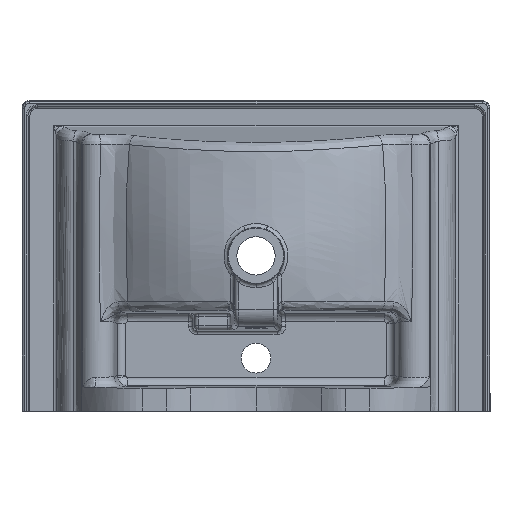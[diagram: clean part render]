
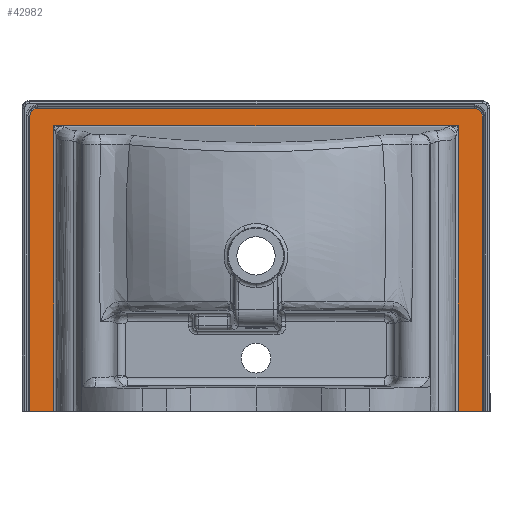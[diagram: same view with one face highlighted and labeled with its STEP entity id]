
A CAD part, front view. The second image highlights one B-rep face of the part: STEP entity #42982.
In plain terms, the highlighted planar face has unit normal (0, -1, 0).
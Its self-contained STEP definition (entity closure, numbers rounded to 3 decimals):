
#891 =( BOUNDED_CURVE ( )  B_SPLINE_CURVE ( 3, ( #9477, #45665, #13263, #22986 ),
 .UNSPECIFIED., .F., .T. ) 
 B_SPLINE_CURVE_WITH_KNOTS ( ( 4, 4 ),
 ( 2.364, 3.919 ),
 .UNSPECIFIED. ) 
 CURVE ( )  GEOMETRIC_REPRESENTATION_ITEM ( )  RATIONAL_B_SPLINE_CURVE ( ( 1., 0.808, 0.808, 1. ) ) 
 REPRESENTATION_ITEM ( '' )  );
#1514 = LINE ( 'NONE', #29671, #39142 ) ;
#1770 = CARTESIAN_POINT ( 'NONE',  ( 262.075, -15., 173.258 ) ) ;
#2407 =( BOUNDED_CURVE ( )  B_SPLINE_CURVE ( 3, ( #12897, #33949, #1770, #9342 ),
 .UNSPECIFIED., .F., .T. ) 
 B_SPLINE_CURVE_WITH_KNOTS ( ( 4, 4 ),
 ( 2.364, 3.919 ),
 .UNSPECIFIED. ) 
 CURVE ( )  GEOMETRIC_REPRESENTATION_ITEM ( )  RATIONAL_B_SPLINE_CURVE ( ( 1., 0.808, 0.808, 1. ) ) 
 REPRESENTATION_ITEM ( '' )  );
#3851 = EDGE_CURVE ( 'NONE', #37269, #46064, #1514, .T. ) ;
#4004 = CARTESIAN_POINT ( 'NONE',  ( -265.758, -15., -182.5 ) ) ;
#5076 = CARTESIAN_POINT ( 'NONE',  ( -275., -15., -182.5 ) ) ;
#5185 = VECTOR ( 'NONE', #17860, 1000. ) ;
#6307 = EDGE_CURVE ( 'NONE', #16047, #37269, #21724, .T. ) ;
#6852 = CARTESIAN_POINT ( 'NONE',  ( -237.523, -15., -152.5 ) ) ;
#7779 = ORIENTED_EDGE ( 'NONE', *, *, #19126, .T. ) ;
#9342 = CARTESIAN_POINT ( 'NONE',  ( 256.827, -15., 173.258 ) ) ;
#9477 = CARTESIAN_POINT ( 'NONE',  ( -256.827, -15., 173.258 ) ) ;
#9514 = DIRECTION ( 'NONE',  ( 0., 0., -1. ) ) ;
#9586 = VERTEX_POINT ( 'NONE', #46633 ) ;
#9944 = CARTESIAN_POINT ( 'NONE',  ( -256.608, -15., 173.258 ) ) ;
#10643 = VERTEX_POINT ( 'NONE', #13472 ) ;
#11344 = EDGE_CURVE ( 'NONE', #10643, #40142, #2407, .T. ) ;
#11859 = EDGE_CURVE ( 'NONE', #40142, #9586, #20335, .T. ) ;
#12897 = CARTESIAN_POINT ( 'NONE',  ( 265.758, -15., 164.327 ) ) ;
#13263 = CARTESIAN_POINT ( 'NONE',  ( -265.758, -15., 169.575 ) ) ;
#13472 = CARTESIAN_POINT ( 'NONE',  ( 265.758, -15., 164.327 ) ) ;
#13503 = VECTOR ( 'NONE', #25291, 1000. ) ;
#14057 = PLANE ( 'NONE',  #25597 ) ;
#14436 = EDGE_CURVE ( 'NONE', #9586, #23012, #891, .T. ) ;
#14733 = CARTESIAN_POINT ( 'NONE',  ( 237.523, -15., 152.983 ) ) ;
#15017 = DIRECTION ( 'NONE',  ( -1., 0., 0. ) ) ;
#16047 = VERTEX_POINT ( 'NONE', #19089 ) ;
#16120 = DIRECTION ( 'NONE',  ( 0., 0., 1. ) ) ;
#16137 = ORIENTED_EDGE ( 'NONE', *, *, #22753, .F. ) ;
#17860 = DIRECTION ( 'NONE',  ( 1., 0., 0. ) ) ;
#17978 = LINE ( 'NONE', #4004, #13503 ) ;
#18298 = ORIENTED_EDGE ( 'NONE', *, *, #11859, .T. ) ;
#18421 = ORIENTED_EDGE ( 'NONE', *, *, #6307, .F. ) ;
#19089 = CARTESIAN_POINT ( 'NONE',  ( -237.523, -15., 152.983 ) ) ;
#19126 = EDGE_CURVE ( 'NONE', #30750, #10643, #19893, .T. ) ;
#19262 = DIRECTION ( 'NONE',  ( -1., 0., 0. ) ) ;
#19893 = LINE ( 'NONE', #30539, #26366 ) ;
#20151 = LINE ( 'NONE', #20400, #45799 ) ;
#20335 = LINE ( 'NONE', #9944, #29891 ) ;
#20400 = CARTESIAN_POINT ( 'NONE',  ( 237.523, -15., -152.5 ) ) ;
#21284 = ORIENTED_EDGE ( 'NONE', *, *, #11344, .T. ) ;
#21724 = LINE ( 'NONE', #6852, #44270 ) ;
#22753 = EDGE_CURVE ( 'NONE', #30750, #35211, #26578, .T. ) ;
#22986 = CARTESIAN_POINT ( 'NONE',  ( -265.758, -15., 164.327 ) ) ;
#23012 = VERTEX_POINT ( 'NONE', #32939 ) ;
#24875 = EDGE_CURVE ( 'NONE', #34712, #35211, #20151, .T. ) ;
#25291 = DIRECTION ( 'NONE',  ( 0., 0., -1. ) ) ;
#25597 = AXIS2_PLACEMENT_3D ( 'NONE', #35365, #28475, #31812 ) ;
#26366 = VECTOR ( 'NONE', #16120, 1000. ) ;
#26578 = LINE ( 'NONE', #5076, #33140 ) ;
#27189 = DIRECTION ( 'NONE',  ( -1., 0., 0. ) ) ;
#27565 = LINE ( 'NONE', #42712, #5185 ) ;
#28475 = DIRECTION ( 'NONE',  ( 0., -1., 0. ) ) ;
#28594 = DIRECTION ( 'NONE',  ( 0., 0., -1. ) ) ;
#29671 = CARTESIAN_POINT ( 'NONE',  ( -275., -15., -182.5 ) ) ;
#29891 = VECTOR ( 'NONE', #27189, 1000. ) ;
#30539 = CARTESIAN_POINT ( 'NONE',  ( 265.758, -15., 164.108 ) ) ;
#30750 = VERTEX_POINT ( 'NONE', #44373 ) ;
#30961 = CARTESIAN_POINT ( 'NONE',  ( 237.523, -15., -182.5 ) ) ;
#31762 = ORIENTED_EDGE ( 'NONE', *, *, #41128, .T. ) ;
#31812 = DIRECTION ( 'NONE',  ( 0., 0., -1. ) ) ;
#32007 = ORIENTED_EDGE ( 'NONE', *, *, #14436, .T. ) ;
#32274 = ORIENTED_EDGE ( 'NONE', *, *, #24875, .T. ) ;
#32701 = CARTESIAN_POINT ( 'NONE',  ( -237.523, -15., -182.5 ) ) ;
#32939 = CARTESIAN_POINT ( 'NONE',  ( -265.758, -15., 164.327 ) ) ;
#33140 = VECTOR ( 'NONE', #19262, 1000. ) ;
#33949 = CARTESIAN_POINT ( 'NONE',  ( 265.758, -15., 169.575 ) ) ;
#34712 = VERTEX_POINT ( 'NONE', #14733 ) ;
#35211 = VERTEX_POINT ( 'NONE', #30961 ) ;
#35365 = CARTESIAN_POINT ( 'NONE',  ( 0., -15., 0. ) ) ;
#37269 = VERTEX_POINT ( 'NONE', #32701 ) ;
#37444 = ORIENTED_EDGE ( 'NONE', *, *, #40696, .T. ) ;
#38643 = CARTESIAN_POINT ( 'NONE',  ( 256.827, -15., 173.258 ) ) ;
#39142 = VECTOR ( 'NONE', #15017, 1000. ) ;
#40142 = VERTEX_POINT ( 'NONE', #38643 ) ;
#40696 = EDGE_CURVE ( 'NONE', #23012, #46064, #17978, .T. ) ;
#41128 = EDGE_CURVE ( 'NONE', #16047, #34712, #27565, .T. ) ;
#41629 = ORIENTED_EDGE ( 'NONE', *, *, #3851, .F. ) ;
#42472 = EDGE_LOOP ( 'NONE', ( #16137, #7779, #21284, #18298, #32007, #37444, #41629, #18421, #31762, #32274 ) ) ;
#42678 = FACE_OUTER_BOUND ( 'NONE', #42472, .T. ) ;
#42712 = CARTESIAN_POINT ( 'NONE',  ( 237.523, -15., 152.983 ) ) ;
#42982 = ADVANCED_FACE ( 'NONE', ( #42678 ), #14057, .T. ) ;
#44270 = VECTOR ( 'NONE', #28594, 1000. ) ;
#44373 = CARTESIAN_POINT ( 'NONE',  ( 265.758, -15., -182.5 ) ) ;
#45665 = CARTESIAN_POINT ( 'NONE',  ( -262.075, -15., 173.258 ) ) ;
#45770 = CARTESIAN_POINT ( 'NONE',  ( -265.758, -15., -182.5 ) ) ;
#45799 = VECTOR ( 'NONE', #9514, 1000. ) ;
#46064 = VERTEX_POINT ( 'NONE', #45770 ) ;
#46633 = CARTESIAN_POINT ( 'NONE',  ( -256.827, -15., 173.258 ) ) ;
